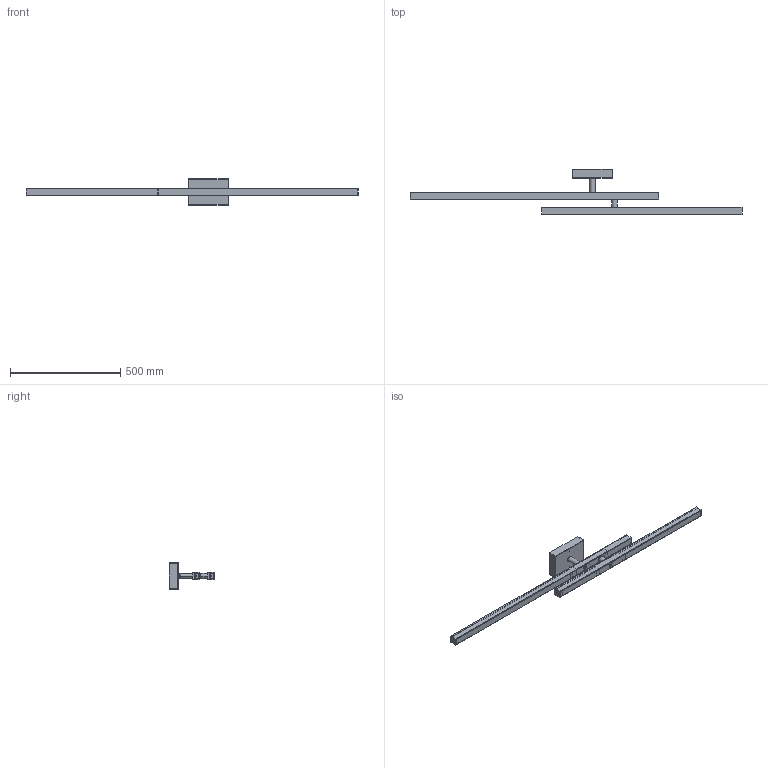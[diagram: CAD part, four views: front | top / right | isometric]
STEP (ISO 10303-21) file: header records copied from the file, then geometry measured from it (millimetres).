
FILE_DESCRIPTION(/* description */ (''),/* implementation_level */ '2;1');
FILE_NAME(/* name */ 'P064__.002',/* time_stamp */ '2024-08-30T14:25:29+02:00',/* author */ (''),/* organization */ (''),/* preprocessor_version */ 'ST-DEVELOPER v16.5',/* originating_system */ '',/* authorisation */ '');
FILE_SCHEMA (('AUTOMOTIVE_DESIGN'));
Length unit declared in the file: millimetre
Products named in the file (1): Document
Bounding box: 1509 x 205.9 x 120 mm (x, y, z)
Volume: 472535.5 mm3; surface area: 720284.4 mm2
Topology: 31 solids, 31 shells, 875 faces, 2215 edges, 1318 vertices
Faces by surface type: plane 456, bspline 419
Entity records: 44108 total; most frequent: CARTESIAN_POINT 30768, ORIENTED_EDGE 4306, EDGE_CURVE 2153, B_SPLINE_CURVE_WITH_KNOTS 1334, VERTEX_POINT 1318, EDGE_LOOP 919, ADVANCED_FACE 875, FACE_OUTER_BOUND 875
